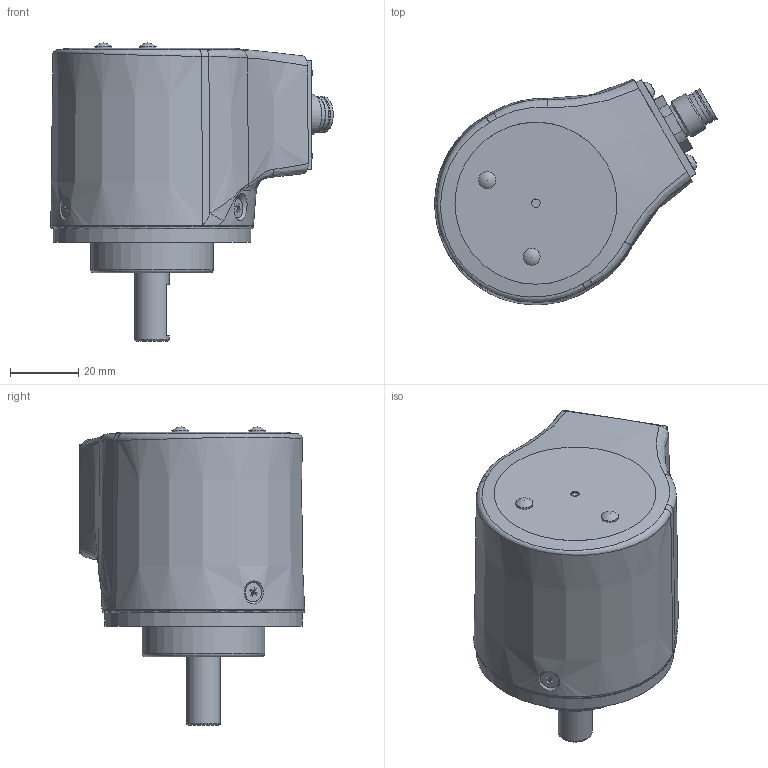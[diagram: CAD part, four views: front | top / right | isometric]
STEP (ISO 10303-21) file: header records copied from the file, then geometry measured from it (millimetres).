
FILE_DESCRIPTION(/* description */ ('Unknown'),/* implementation_level */ '2;1');
FILE_NAME(/* name */ 'EAL_EAML_58_C_M12R',/* time_stamp */ '2018-04-19T16:05:15+02:00',/* author */ ('Unknown'),/* organization */ ('Unknown'),/* preprocessor_version */ 'ST-DEVELOPER v16.7',/* originating_system */ 'DEX',/* authorisation */ $);
FILE_SCHEMA (('AUTOMOTIVE_DESIGN {1 0 10303 214 3 1 1}'));
Length unit declared in the file: millimetre
Products named in the file (1): tmp1EAL_EAML_58_C_M12R
Bounding box: 83.01 x 66.24 x 87.54 mm (x, y, z)
Volume: 82247.3 mm3; surface area: 45704.5 mm2
Topology: 3 solids, 18 shells, 515 faces, 1231 edges, 817 vertices
Faces by surface type: plane 264, cylinder 132, cone 67, torus 35, bspline 17
Full cylindrical faces by diameter (mm): 0.9 x16, 1.5 x8, 2.013 x7, 2.459 x7, 2.5 x4, 3 x7, 3.4 x3, 4.98 x1, 5 x3, 5.6 x3, 6 x5, 7.98 x1, 8 x7, 8.25 x1, 8.772 x1, 10 x5, 10.4 x4, 12 x1, 12.4 x1, 13 x1, 14.53 x1, 15.2 x1, 22 x3, 22.1 x2, 22.5 x1, 27 x1, 29 x2, 36 x1, 51.2 x1, 54 x3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
Entity records: 17958 total; most frequent: CARTESIAN_POINT 4170, DIRECTION 2102, ORIENTED_EDGE 1804, EDGE_CURVE 902, AXIS2_PLACEMENT_3D 882, FACE_BOUND 823, EDGE_LOOP 806, VERTEX_POINT 705
